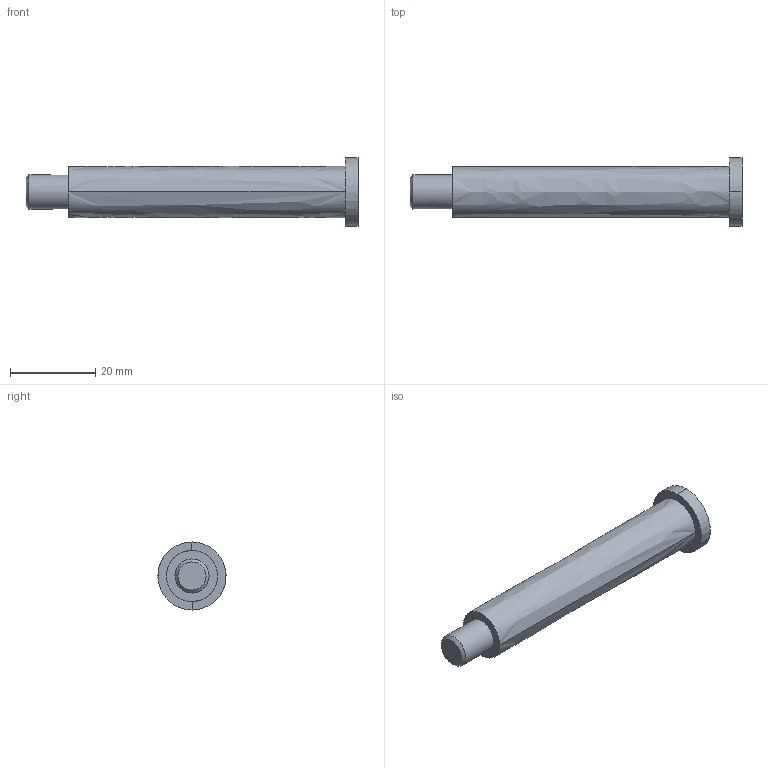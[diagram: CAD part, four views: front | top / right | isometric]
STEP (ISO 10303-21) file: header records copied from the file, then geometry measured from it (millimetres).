
FILE_DESCRIPTION (( 'STEP AP214' ), '1' );
FILE_NAME ('HP-100WJ-15.STEP', '2020-07-04T07:58:36', ( '' ), ( '' ), 'SwSTEP 2.0', 'SolidWorks 2010', '' );
FILE_SCHEMA (( 'AUTOMOTIVE_DESIGN' ));
Length unit declared in the file: millimetre
Products named in the file (1): HP-100WJ-15
Bounding box: 78 x 16 x 16 mm (x, y, z)
Volume: 8441.9 mm3; surface area: 3242.6 mm2
Topology: 1 solids, 1 shells, 13 faces, 27 edges, 17 vertices
Faces by surface type: bspline 10, plane 3
Entity records: 1417 total; most frequent: CARTESIAN_POINT 1184, ORIENTED_EDGE 54, EDGE_CURVE 27, B_SPLINE_CURVE_WITH_KNOTS 25, VERTEX_POINT 17, EDGE_LOOP 14, ADVANCED_FACE 13, FACE_OUTER_BOUND 13
